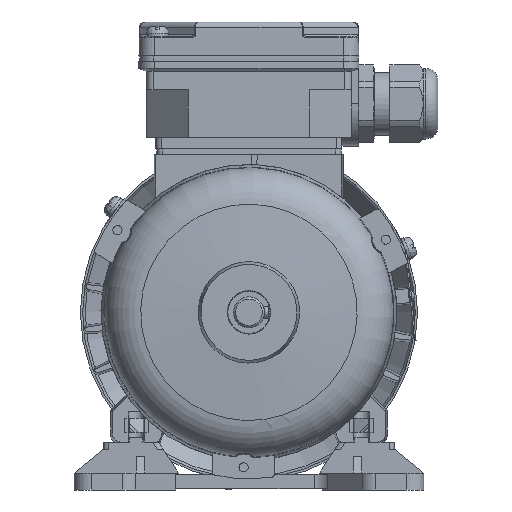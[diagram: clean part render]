
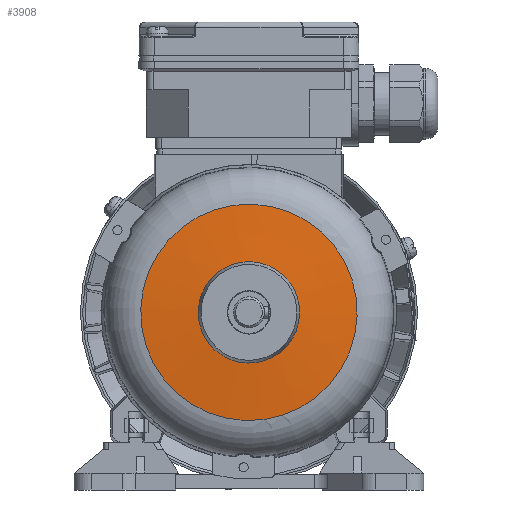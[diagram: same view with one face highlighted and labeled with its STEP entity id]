
A CAD part, left-side view. The second image highlights one B-rep face of the part: STEP entity #3908.
In plain terms, the highlighted conical face has half-angle 85.5 degrees and reference radius 38.379 mm.
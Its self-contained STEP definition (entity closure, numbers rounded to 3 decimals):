
#3908 = ADVANCED_FACE( '', ( #8767, #8768 ), #8769, .T. );
#8767 = FACE_BOUND( '', #18869, .T. );
#8768 = FACE_OUTER_BOUND( '', #18870, .T. );
#8769 = CONICAL_SURFACE( '', #18871, 38.379, 1.492 );
#18869 = EDGE_LOOP( '', ( #35975 ) );
#18870 = EDGE_LOOP( '', ( #35976 ) );
#18871 = AXIS2_PLACEMENT_3D( '', #35977, #35978, #35979 );
#35975 = ORIENTED_EDGE( '', *, *, #50614, .T. );
#35976 = ORIENTED_EDGE( '', *, *, #50615, .F. );
#35977 = CARTESIAN_POINT( '', ( 0., 0., 36.396 ) );
#35978 = DIRECTION( '', ( 0., 0., -1. ) );
#35979 = DIRECTION( '', ( -1., 0., 0. ) );
#50614 = EDGE_CURVE( '', #60083, #60083, #60084, .T. );
#50615 = EDGE_CURVE( '', #60085, #60085, #60086, .T. );
#60083 = VERTEX_POINT( '', #77563 );
#60084 = CIRCLE( '', #77564, 18. );
#60085 = VERTEX_POINT( '', #77565 );
#60086 = CIRCLE( '', #77566, 38.379 );
#77563 = CARTESIAN_POINT( '', ( -18., 0., 38. ) );
#77564 = AXIS2_PLACEMENT_3D( '', #91174, #91175, #91176 );
#77565 = CARTESIAN_POINT( '', ( -38.379, 0., 36.396 ) );
#77566 = AXIS2_PLACEMENT_3D( '', #91177, #91178, #91179 );
#91174 = CARTESIAN_POINT( '', ( 0., 0., 38. ) );
#91175 = DIRECTION( '', ( 0., 0., -1. ) );
#91176 = DIRECTION( '', ( -1., 0., 0. ) );
#91177 = CARTESIAN_POINT( '', ( 0., 0., 36.396 ) );
#91178 = DIRECTION( '', ( 0., 0., -1. ) );
#91179 = DIRECTION( '', ( -1., 0., 0. ) );
